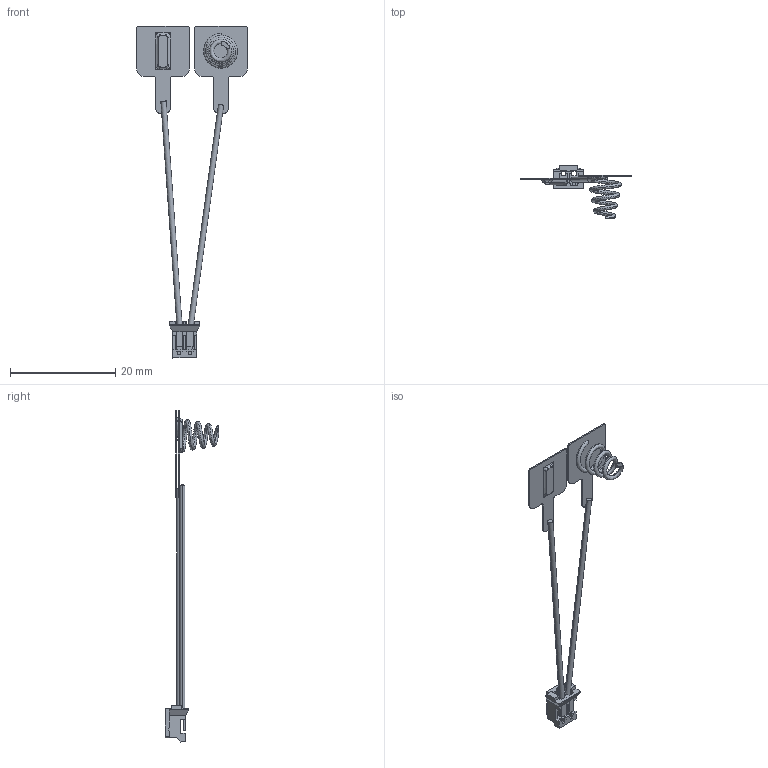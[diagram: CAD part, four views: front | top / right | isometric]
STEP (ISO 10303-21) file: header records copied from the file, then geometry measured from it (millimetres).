
FILE_DESCRIPTION((''),'2;1');
FILE_NAME('ASM0001_ASM','2024-04-09T21:19:41',('qinghui.yi'),(''),'CREO PARAMETRIC BY PTC INC, 2019164','CREO PARAMETRIC BY PTC INC, 2019164','');
FILE_SCHEMA(('CONFIG_CONTROL_DESIGN','SHAPE_APPEARANCE_LAYERS_GROUPS'));
Length unit declared in the file: millimetre
Products named in the file (5): B2; B1; USER_LIBRARY-CONNECTOR_-_JST_PH; PRT0002; ASM0001_ASM
Assembly tree (5 placements, depth 2):
  ASM0001_ASM
    B2
    B1
    USER_LIBRARY-CONNECTOR_-_JST_PH
    PRT0002  x2
Bounding box: 21.01 x 10.24 x 62.97 mm (x, y, z)
Volume: 212.5 mm3; surface area: 1146.5 mm2
Topology: 5 solids, 5 shells, 180 faces, 508 edges, 356 vertices
Faces by surface type: plane 150, cylinder 24, bspline 6
Entity records: 7277 total; most frequent: CARTESIAN_POINT 2135, ORIENTED_EDGE 964, DIRECTION 909, EDGE_CURVE 482, VECTOR 445, LINE 445, COLOUR_RGB 316, VERTEX_POINT 312
